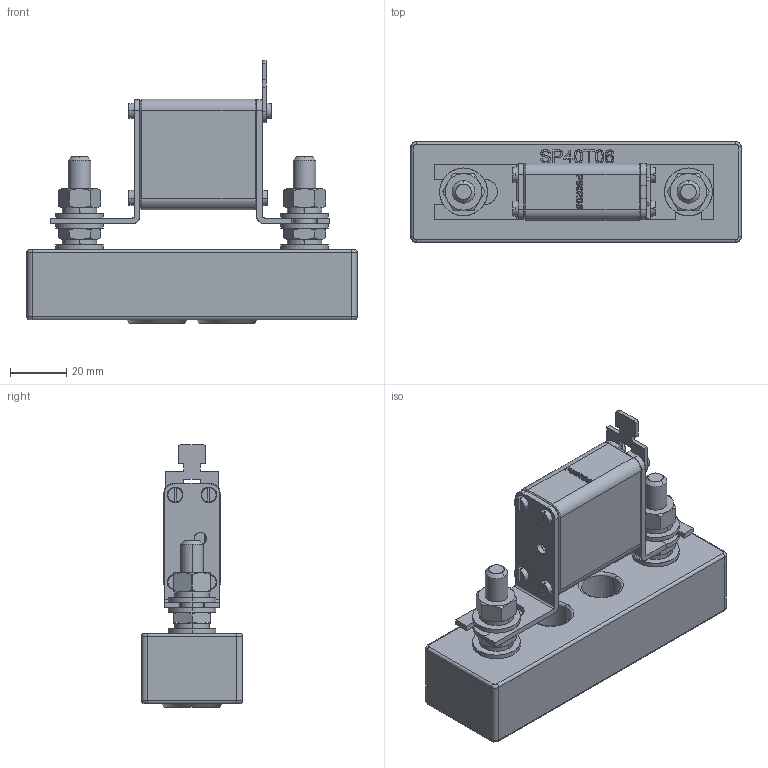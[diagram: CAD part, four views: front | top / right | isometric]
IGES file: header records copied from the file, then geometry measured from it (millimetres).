
Start section: SolidWorks IGES file using analytic representation for surfaces
Global section: file name: U:\14_RD\05_Technical_office\04_Office\Hrdinova\3D modely - IGES\Varius - Ostatní\SP40T06__P50R06.IGS; native system: SolidWorks 2011; preprocessor: SolidWorks 2011; author: adhrja3; date: 170620.141750; units: millimetre
Bounding box: 117.5 x 36 x 93.3 mm (x, y, z)
Surface area: 45527.5 mm2 (no closed solid volume)
Topology: 0 solids, 0 shells, 1009 faces, 12293 edges, 12269 vertices
Faces by surface type: bspline 576, revolution 433
